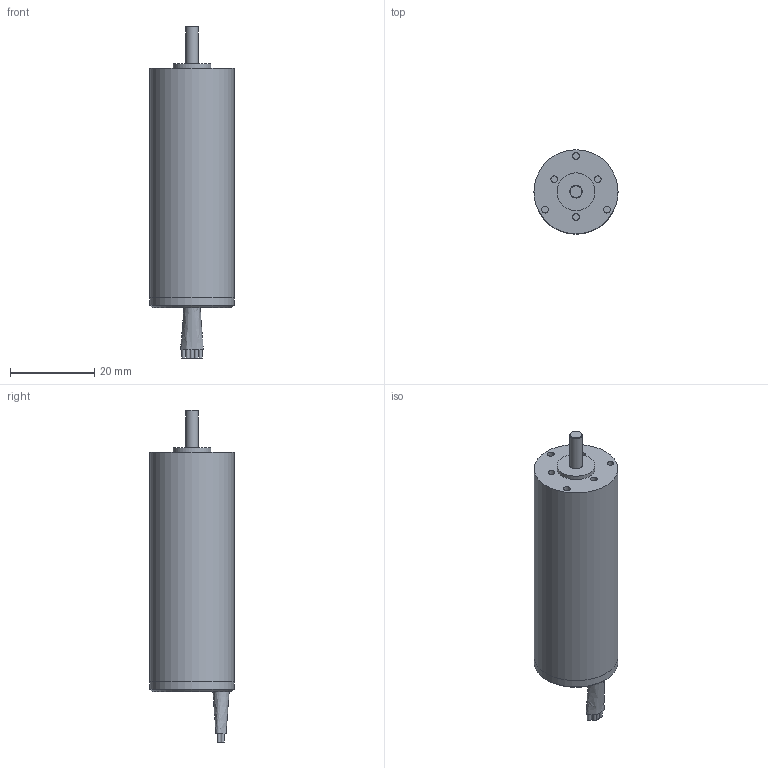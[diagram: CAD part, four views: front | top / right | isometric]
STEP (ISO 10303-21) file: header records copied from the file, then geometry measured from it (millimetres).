
FILE_DESCRIPTION(/* description */ (''),/* implementation_level */ '2;1');
FILE_NAME(/* name */ '2057S_B.stp',/* time_stamp */ '2019-08-19T13:58:29+02:00',/* author */ ('DR. FRITZ FAULHABER GmbH & Co. KG'),/* organization */ ('DR. FRITZ FAULHABER GmbH & Co. KG'),/* preprocessor_version */ 'ST-DEVELOPER v16.7',/* originating_system */ 'SIEMENS PLM Software NX 12.0',/* authorisation */ '');
FILE_SCHEMA (('AUTOMOTIVE_DESIGN { 1 0 10303 214 3 1 1 1 }'));
Length unit declared in the file: millimetre
Products named in the file (1): H00000676-B-2057.0H001
Bounding box: 20 x 20 x 79 mm (x, y, z)
Volume: 18133 mm3; surface area: 4538.1 mm2
Topology: 1 solids, 1 shells, 43 faces, 72 edges, 50 vertices
Faces by surface type: plane 21, cylinder 19, cone 2, bspline 1
Full cylindrical faces by diameter (mm): 0.8 x5, 0.9 x3, 1.6 x6, 3 x1, 9 x1, 19.999 x1, 20 x2
Entity records: 1050 total; most frequent: CARTESIAN_POINT 309, DIRECTION 166, EDGE_LOOP 84, ORIENTED_EDGE 84, AXIS2_PLACEMENT_3D 83, FACE_BOUND 69, ADVANCED_FACE 43, VERTEX_POINT 42
